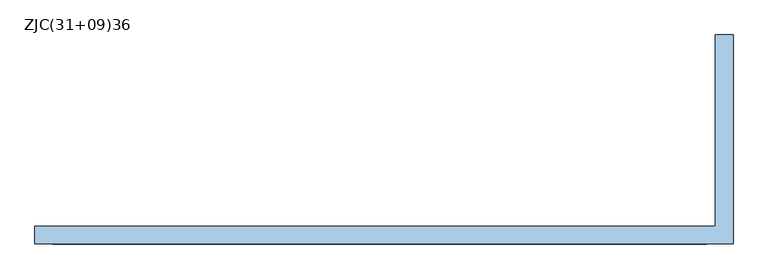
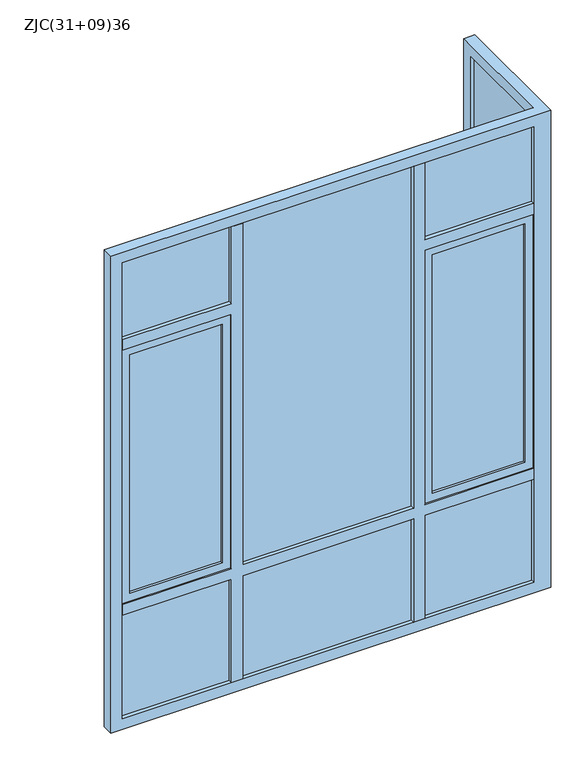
"""IFC4 building model written with IfcOpenShell, lengths in millimetres: window geometry, 转角窗 安荣伟 : ZJC(31+09)36."""

from ifc_helpers import new_model, si_unit, frame, origin, place, context, project, spatial, polyline, outline, extrude, faceted_brep, source, transform, mapped, element, save


def zjc_31_09_36_b1df3ee7(model_context):
    return source(origin(), model_context, "Body", "SolidModel", [
        faceted_brep([(-3100.0, -40.0, 3600.0), (-3100.0, -40.0, 0.0), (40.0, -40.0, 0.0), (40.0, -40.0, 3600.0), (-80.0, -40.0, 3520.0), (-80.0, -40.0, 80.0), (-3020.0, -40.0, 80.0), (-3020.0, -40.0, 3520.0), (-3100.0, 40.0, 0.0), (-3100.0, 40.0, 3600.0), (-40.0, 40.0, 3600.0), (-40.0, 40.0, 3520.0), (40.0, 40.0, 3520.0), (40.0, 40.0, 80.0), (-40.0, 40.0, 80.0), (-40.0, 40.0, 0.0), (-80.0, 40.0, 3520.0), (-3020.0, 40.0, 3520.0), (-3020.0, 40.0, 80.0), (-80.0, 40.0, 80.0), (40.0, 900.0, 3600.0), (-40.0, 900.0, 3600.0), (-40.0, 900.0, 0.0), (40.0, 900.0, 0.0), (40.0, 820.0, 3520.0), (40.0, 820.0, 80.0), (-40.0, 820.0, 80.0), (-40.0, 820.0, 3520.0)], [[[0, 1, 2, 3], [4, 5, 6, 7]], [[8, 9, 10, 11, 12, 13, 14, 15], [16, 17, 18, 19]], [[9, 0, 3, 20, 21, 10]], [[1, 0, 9, 8]], [[2, 1, 8, 15, 22, 23]], [[5, 4, 16, 19]], [[6, 5, 19, 18]], [[7, 6, 18, 17]], [[4, 7, 17, 16]], [[20, 3, 2, 23], [24, 25, 13, 12]], [[21, 22, 15, 14, 26, 27, 11, 10]], [[20, 23, 22, 21]], [[25, 24, 27, 26]], [[14, 13, 25, 26]], [[24, 12, 11, 27]]]),
        extrude(outline(polyline([(3520.0, -2160.0), (3520.0, -2240.0), (2940.0, -2240.0), (2940.0, -3020.0), (2860.0, -3020.0), (2860.0, -2240.0), (940.0, -2240.0), (940.0, -3020.0), (860.0, -3020.0), (860.0, -2240.0), (80.0, -2240.0), (80.0, -2160.0), (860.0, -2160.0), (860.0, -940.0), (80.0, -940.0), (80.0, -860.0), (860.0, -860.0), (860.0, -80.0), (940.0, -80.0), (940.0, -860.0), (2860.0, -860.0), (2860.0, -80.0), (2940.0, -80.0), (2940.0, -860.0), (3520.0, -860.0), (3520.0, -940.0), (940.0, -940.0), (940.0, -2160.0), (3520.0, -2160.0)])), frame((0.0, -40.0, 0.0), z_axis=(0.0, 1.0, 0.0), x_axis=(0.0, 0.0, 1.0)), (0.0, 0.0, 1.0), 80.0),
        extrude(outline(polyline([(-6.0, 820.0), (-6.0, 40.0), (-12.0, 40.0), (-12.0, 820.0), (-6.0, 820.0)])), frame((0.0, 0.0, 2940.0), z_axis=(0.0, 0.0, 1.0), x_axis=(1.0, 0.0, 0.0)), (0.0, 0.0, 1.0), 580.0),
        extrude(outline(polyline([(-6.0, 820.0), (-6.0, 40.0), (-12.0, 40.0), (-12.0, 820.0), (-6.0, 820.0)])), frame((0.0, 0.0, 940.0), z_axis=(0.0, 0.0, 1.0), x_axis=(1.0, 0.0, 0.0)), (0.0, 0.0, 1.0), 1920.0),
        extrude(outline(polyline([(-6.0, 820.0), (-6.0, 40.0), (-12.0, 40.0), (-12.0, 820.0), (-6.0, 820.0)])), frame((0.0, 0.0, 80.0), z_axis=(0.0, 0.0, 1.0), x_axis=(1.0, 0.0, 0.0)), (0.0, 0.0, 1.0), 780.0),
        extrude(outline(polyline([(12.0, 820.0), (12.0, 40.0), (6.0, 40.0), (6.0, 820.0), (12.0, 820.0)])), frame((0.0, 0.0, 2940.0), z_axis=(0.0, 0.0, 1.0), x_axis=(1.0, 0.0, 0.0)), (0.0, 0.0, 1.0), 580.0),
        extrude(outline(polyline([(12.0, 820.0), (12.0, 40.0), (6.0, 40.0), (6.0, 820.0), (12.0, 820.0)])), frame((0.0, 0.0, 940.0), z_axis=(0.0, 0.0, 1.0), x_axis=(1.0, 0.0, 0.0)), (0.0, 0.0, 1.0), 1920.0),
        extrude(outline(polyline([(12.0, 820.0), (12.0, 40.0), (6.0, 40.0), (6.0, 820.0), (12.0, 820.0)])), frame((0.0, 0.0, 80.0), z_axis=(0.0, 0.0, 1.0), x_axis=(1.0, 0.0, 0.0)), (0.0, 0.0, 1.0), 780.0),
        extrude(outline(polyline([(-2240.0, 6.0), (-3020.0, 6.0), (-3020.0, 12.0), (-2240.0, 12.0), (-2240.0, 6.0)])), frame((0.0, 0.0, 2940.0), z_axis=(0.0, 0.0, 1.0), x_axis=(1.0, 0.0, 0.0)), (0.0, 0.0, 1.0), 580.0),
        extrude(outline(polyline([(-2300.0, 6.0), (-2960.0, 6.0), (-2960.0, 12.0), (-2300.0, 12.0), (-2300.0, 6.0)])), frame((0.0, 0.0, 1000.0), z_axis=(0.0, 0.0, 1.0), x_axis=(1.0, 0.0, 0.0)), (0.0, 0.0, 1.0), 1800.0),
        extrude(outline(polyline([(-940.0, 6.0), (-2160.0, 6.0), (-2160.0, 12.0), (-940.0, 12.0), (-940.0, 6.0)])), frame((0.0, 0.0, 940.0), z_axis=(0.0, 0.0, 1.0), x_axis=(1.0, 0.0, 0.0)), (0.0, 0.0, 1.0), 2580.0),
        extrude(outline(polyline([(-80.0, 6.0), (-860.0, 6.0), (-860.0, 12.0), (-80.0, 12.0), (-80.0, 6.0)])), frame((0.0, 0.0, 2940.0), z_axis=(0.0, 0.0, 1.0), x_axis=(1.0, 0.0, 0.0)), (0.0, 0.0, 1.0), 580.0),
        extrude(outline(polyline([(-140.0, 6.0), (-800.0, 6.0), (-800.0, 12.0), (-140.0, 12.0), (-140.0, 6.0)])), frame((0.0, 0.0, 1000.0), z_axis=(0.0, 0.0, 1.0), x_axis=(1.0, 0.0, 0.0)), (0.0, 0.0, 1.0), 1800.0),
        extrude(outline(polyline([(-2240.0, 6.0), (-3020.0, 6.0), (-3020.0, 12.0), (-2240.0, 12.0), (-2240.0, 6.0)])), frame((0.0, 0.0, 80.0), z_axis=(0.0, 0.0, 1.0), x_axis=(1.0, 0.0, 0.0)), (0.0, 0.0, 1.0), 780.0),
        extrude(outline(polyline([(-940.0, 6.0), (-2160.0, 6.0), (-2160.0, 12.0), (-940.0, 12.0), (-940.0, 6.0)])), frame((0.0, 0.0, 80.0), z_axis=(0.0, 0.0, 1.0), x_axis=(1.0, 0.0, 0.0)), (0.0, 0.0, 1.0), 780.0),
        extrude(outline(polyline([(-80.0, 6.0), (-860.0, 6.0), (-860.0, 12.0), (-80.0, 12.0), (-80.0, 6.0)])), frame((0.0, 0.0, 80.0), z_axis=(0.0, 0.0, 1.0), x_axis=(1.0, 0.0, 0.0)), (0.0, 0.0, 1.0), 780.0),
        extrude(outline(polyline([(-2240.0, -12.0), (-3020.0, -12.0), (-3020.0, -6.0), (-2240.0, -6.0), (-2240.0, -12.0)])), frame((0.0, 0.0, 2940.0), z_axis=(0.0, 0.0, 1.0), x_axis=(1.0, 0.0, 0.0)), (0.0, 0.0, 1.0), 580.0),
        extrude(outline(polyline([(-2300.0, -12.0), (-2960.0, -12.0), (-2960.0, -6.0), (-2300.0, -6.0), (-2300.0, -12.0)])), frame((0.0, 0.0, 1000.0), z_axis=(0.0, 0.0, 1.0), x_axis=(1.0, 0.0, 0.0)), (0.0, 0.0, 1.0), 1800.0),
        extrude(outline(polyline([(-940.0, -12.0), (-2160.0, -12.0), (-2160.0, -6.0), (-940.0, -6.0), (-940.0, -12.0)])), frame((0.0, 0.0, 940.0), z_axis=(0.0, 0.0, 1.0), x_axis=(1.0, 0.0, 0.0)), (0.0, 0.0, 1.0), 2580.0),
        extrude(outline(polyline([(-80.0, -12.0), (-860.0, -12.0), (-860.0, -6.0), (-80.0, -6.0), (-80.0, -12.0)])), frame((0.0, 0.0, 2940.0), z_axis=(0.0, 0.0, 1.0), x_axis=(1.0, 0.0, 0.0)), (0.0, 0.0, 1.0), 580.0),
        extrude(outline(polyline([(-140.0, -12.0), (-800.0, -12.0), (-800.0, -6.0), (-140.0, -6.0), (-140.0, -12.0)])), frame((0.0, 0.0, 1000.0), z_axis=(0.0, 0.0, 1.0), x_axis=(1.0, 0.0, 0.0)), (0.0, 0.0, 1.0), 1800.0),
        extrude(outline(polyline([(-2240.0, -12.0), (-3020.0, -12.0), (-3020.0, -6.0), (-2240.0, -6.0), (-2240.0, -12.0)])), frame((0.0, 0.0, 80.0), z_axis=(0.0, 0.0, 1.0), x_axis=(1.0, 0.0, 0.0)), (0.0, 0.0, 1.0), 780.0),
        extrude(outline(polyline([(-940.0, -12.0), (-2160.0, -12.0), (-2160.0, -6.0), (-940.0, -6.0), (-940.0, -12.0)])), frame((0.0, 0.0, 80.0), z_axis=(0.0, 0.0, 1.0), x_axis=(1.0, 0.0, 0.0)), (0.0, 0.0, 1.0), 780.0),
        extrude(outline(polyline([(-80.0, -12.0), (-860.0, -12.0), (-860.0, -6.0), (-80.0, -6.0), (-80.0, -12.0)])), frame((0.0, 0.0, 80.0), z_axis=(0.0, 0.0, 1.0), x_axis=(1.0, 0.0, 0.0)), (0.0, 0.0, 1.0), 780.0),
        extrude(outline(polyline([(40.0, 820.0), (40.0, 40.0), (-40.0, 40.0), (-40.0, 820.0), (40.0, 820.0)])), frame((0.0, 0.0, 2860.0), z_axis=(0.0, 0.0, 1.0), x_axis=(1.0, 0.0, 0.0)), (0.0, 0.0, 1.0), 80.0),
        extrude(outline(polyline([(40.0, 820.0), (40.0, 40.0), (-40.0, 40.0), (-40.0, 820.0), (40.0, 820.0)])), frame((0.0, 0.0, 860.0), z_axis=(0.0, 0.0, 1.0), x_axis=(1.0, 0.0, 0.0)), (0.0, 0.0, 1.0), 80.0),
        extrude(outline(polyline([(2860.0, -2240.0), (2860.0, -3020.0), (940.0, -3020.0), (940.0, -2240.0), (2860.0, -2240.0)]), holes=[polyline([(2800.0, -2300.0), (1000.0, -2300.0), (1000.0, -2960.0), (2800.0, -2960.0), (2800.0, -2300.0)])]), frame((0.0, -30.0, 0.0), z_axis=(0.0, 1.0, 0.0), x_axis=(0.0, 0.0, 1.0)), (0.0, 0.0, 1.0), 60.0),
        extrude(outline(polyline([(2860.0, -80.0), (2860.0, -860.0), (940.0, -860.0), (940.0, -80.0), (2860.0, -80.0)]), holes=[polyline([(2800.0, -140.0), (1000.0, -140.0), (1000.0, -800.0), (2800.0, -800.0), (2800.0, -140.0)])]), frame((0.0, -30.0, 0.0), z_axis=(0.0, 1.0, 0.0), x_axis=(0.0, 0.0, 1.0)), (0.0, 0.0, 1.0), 60.0),
    ])


if __name__ == "__main__":
    model = new_model("IFC4")
    model_context = context("Model", 3, world=origin())
    ifc_project = project(units=[si_unit("LENGTHUNIT", "METRE", prefix="MILLI")], contexts=[model_context])
    site = spatial("IfcSite", under=ifc_project)
    building = spatial("IfcBuilding", under=site)
    placement = place(None, origin())
    zjc_31_09_36_shape = zjc_31_09_36_b1df3ee7(model_context)
    element("IfcWindow", 1, ObjectType="转角窗 安荣伟 : ZJC(31+09)36", at=placement, inside=building, context=model_context, shape_type="MappedRepresentation", body=[
        mapped(zjc_31_09_36_shape, transform((0.0, 0.0, 0.0), x_axis=(1.0, 0.0, 0.0), y_axis=(0.0, 1.0, 0.0), z_axis=(0.0, 0.0, 1.0))),
    ])
    save(model, "model.ifc")
